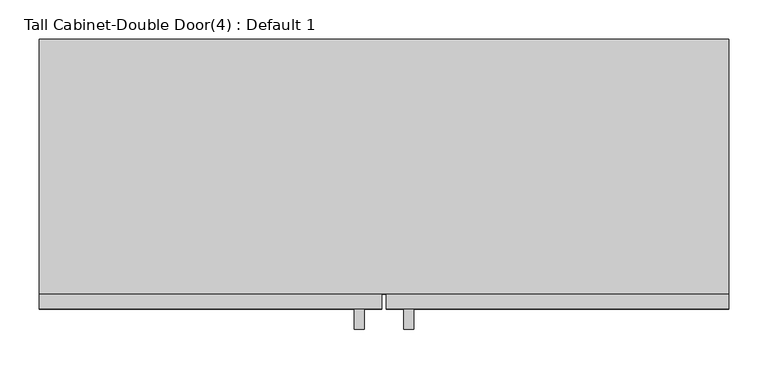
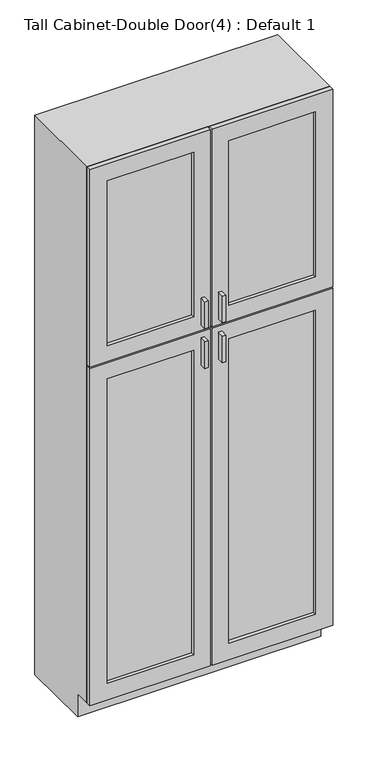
"""IFC4 building model written with IfcOpenShell, lengths in millimetres: furniture geometry, Tall Cabinet-Double Door(4) : Default 1."""

from ifc_helpers import new_model, si_unit, frame, origin, place, context, project, spatial, polyline, outline, extrude, faceted_brep, source, transform, mapped, element, save


def tall_cabinet_double_door_4_default_1_fbb226ff(model_context):
    return source(origin(), model_context, "Body", "SolidModel", [
        faceted_brep([(457.0800898, -323.85, 90.4875), (457.0800898, -323.85, 2133.6), (-419.60468, -323.85, 2133.6), (-419.60468, -323.85, 90.4875), (438.0300898, -323.85, 2114.55), (438.0300898, -323.85, 109.5375), (-400.55468, -323.85, 109.5375), (-400.55468, -323.85, 2114.55), (-419.60468, 0.0, 2133.6), (457.0800898, 0.0, 2133.6), (457.0800898, 0.0, 1.5875), (-419.60468, 0.0, 1.5875), (438.0300898, 0.0, 2114.55), (-400.55468, 0.0, 2114.55), (-400.55468, 0.0, 109.5375), (438.0300898, 0.0, 109.5375), (457.0800898, -266.7, 90.4875), (457.0800898, -266.7, 1.5875), (-419.60468, -266.7, 1.5875), (-419.60468, -266.7, 90.4875)], [[[0, 1, 2, 3], [4, 5, 6, 7]], [[8, 9, 10, 11], [12, 13, 14, 15]], [[1, 0, 16, 17, 10, 9]], [[2, 1, 9, 8]], [[3, 2, 8, 11, 18, 19]], [[0, 3, 19, 16]], [[5, 4, 12, 15]], [[6, 5, 15, 14]], [[7, 6, 14, 13]], [[4, 7, 13, 12]], [[10, 17, 18, 11]], [[18, 17, 16, 19]]]),
        extrude(outline(polyline([(-6.6622951, -368.3), (-19.1945267, -368.3), (-19.1945267, -342.9), (-6.6622951, -342.9), (-6.6622951, -368.3)])), frame((0.0, 0.0, 1403.5480367), z_axis=(0.0, 0.0, 1.0), x_axis=(1.0, 0.0, 0.0)), (0.0, 0.0, 1.0), 101.6),
        extrude(outline(polyline([(56.6699365, -368.3), (44.1377049, -368.3), (44.1377049, -342.9), (56.6699365, -342.9), (56.6699365, -368.3)])), frame((0.0, 0.0, 1403.5480367), z_axis=(0.0, 0.0, 1.0), x_axis=(1.0, 0.0, 0.0)), (0.0, 0.0, 1.0), 101.6),
        extrude(outline(polyline([(-6.6622951, -368.3), (-19.1945267, -368.3), (-19.1945267, -342.9), (-6.6622951, -342.9), (-6.6622951, -368.3)])), frame((0.0, 0.0, 1251.1480367), z_axis=(0.0, 0.0, 1.0), x_axis=(1.0, 0.0, 0.0)), (0.0, 0.0, 1.0), 101.6),
        extrude(outline(polyline([(56.6699365, -368.3), (44.1377049, -368.3), (44.1377049, -342.9), (56.6699365, -342.9), (56.6699365, -368.3)])), frame((0.0, 0.0, 1251.1480367), z_axis=(0.0, 0.0, 1.0), x_axis=(1.0, 0.0, 0.0)), (0.0, 0.0, 1.0), 101.6),
        extrude(outline(polyline([(-44.7622951, -330.2), (-356.10468, -330.2), (-356.10468, -323.85), (-44.7622951, -323.85), (-44.7622951, -330.2)])), frame((0.0, 0.0, 1441.6480367), z_axis=(0.0, 0.0, 1.0), x_axis=(1.0, 0.0, 0.0)), (0.0, 0.0, 1.0), 628.4519633),
        extrude(outline(polyline([(393.5800898, -330.2), (82.2377049, -330.2), (82.2377049, -323.85), (393.5800898, -323.85), (393.5800898, -330.2)])), frame((0.0, 0.0, 1441.6480367), z_axis=(0.0, 0.0, 1.0), x_axis=(1.0, 0.0, 0.0)), (0.0, 0.0, 1.0), 628.4519633),
        extrude(outline(polyline([(-44.7622951, -330.2), (-356.10468, -330.2), (-356.10468, -323.85), (-44.7622951, -323.85), (-44.7622951, -330.2)])), frame((0.0, 0.0, 153.9875), z_axis=(0.0, 0.0, 1.0), x_axis=(1.0, 0.0, 0.0)), (0.0, 0.0, 1.0), 1160.6605367),
        extrude(outline(polyline([(393.5800898, -330.2), (82.2377049, -330.2), (82.2377049, -323.85), (393.5800898, -323.85), (393.5800898, -330.2)])), frame((0.0, 0.0, 153.9875), z_axis=(0.0, 0.0, 1.0), x_axis=(1.0, 0.0, 0.0)), (0.0, 0.0, 1.0), 1160.6605367),
        extrude(outline(polyline([(2133.6, 15.5627049), (2133.6, -419.60468), (1381.3230367, -419.60468), (1381.3230367, 15.5627049), (2133.6, 15.5627049)]), holes=[polyline([(2070.1, -44.7622951), (1441.6480367, -44.7622951), (1441.6480367, -356.10468), (2070.1, -356.10468), (2070.1, -44.7622951)])]), frame((0.0, -342.9, 0.0), z_axis=(0.0, 1.0, 0.0), x_axis=(0.0, 0.0, 1.0)), (0.0, 0.0, 1.0), 19.05),
        extrude(outline(polyline([(2133.6, 21.9127049), (1381.3230367, 21.9127049), (1381.3230367, 457.0800898), (2133.6, 457.0800898), (2133.6, 21.9127049)]), holes=[polyline([(2070.1, 393.5800898), (1441.6480367, 393.5800898), (1441.6480367, 82.2377049), (2070.1, 82.2377049), (2070.1, 393.5800898)])]), frame((0.0, -342.9, 0.0), z_axis=(0.0, 1.0, 0.0), x_axis=(0.0, 0.0, 1.0)), (0.0, 0.0, 1.0), 19.05),
        extrude(outline(polyline([(90.4875, 21.9127049), (90.4875, 457.0800898), (1374.9730367, 457.0800898), (1374.9730367, 21.9127049), (90.4875, 21.9127049)]), holes=[polyline([(1314.6480367, 82.2377049), (1314.6480367, 393.5800898), (153.9875, 393.5800898), (153.9875, 82.2377049), (1314.6480367, 82.2377049)])]), frame((0.0, -342.9, 0.0), z_axis=(0.0, 1.0, 0.0), x_axis=(0.0, 0.0, 1.0)), (0.0, 0.0, 1.0), 19.05),
        extrude(outline(polyline([(90.4875, 15.5627049), (1374.9730367, 15.5627049), (1374.9730367, -419.60468), (90.4875, -419.60468), (90.4875, 15.5627049)]), holes=[polyline([(1314.6480367, -44.7622951), (153.9875, -44.7622951), (153.9875, -356.10468), (1314.6480367, -356.10468), (1314.6480367, -44.7622951)])]), frame((0.0, -342.9, 0.0), z_axis=(0.0, 1.0, 0.0), x_axis=(0.0, 0.0, 1.0)), (0.0, 0.0, 1.0), 19.05),
        extrude(outline(polyline([(438.0300898, -19.05), (-400.55468, -19.05), (-400.55468, 0.0), (438.0300898, 0.0), (438.0300898, -19.05)])), frame((0.0, 0.0, 109.5375), z_axis=(0.0, 0.0, 1.0), x_axis=(1.0, 0.0, 0.0)), (0.0, 0.0, 1.0), 2005.0125),
    ])


if __name__ == "__main__":
    model = new_model("IFC4")
    model_context = context("Model", 3, world=origin())
    ifc_project = project(units=[si_unit("LENGTHUNIT", "METRE", prefix="MILLI")], contexts=[model_context])
    site = spatial("IfcSite", under=ifc_project)
    building = spatial("IfcBuilding", under=site)
    placement = place(None, origin())
    tall_cabinet_double_door_4_default_1_shape = tall_cabinet_double_door_4_default_1_fbb226ff(model_context)
    element("IfcFurniture", 1, ObjectType="Tall Cabinet-Double Door(4) : Default 1", at=placement, inside=building, context=model_context, shape_type="MappedRepresentation", body=[
        mapped(tall_cabinet_double_door_4_default_1_shape, transform((0.0, 0.0, 0.0), x_axis=(1.0, 0.0, 0.0), y_axis=(0.0, 1.0, 0.0), z_axis=(0.0, 0.0, 1.0))),
    ])
    save(model, "model.ifc")
